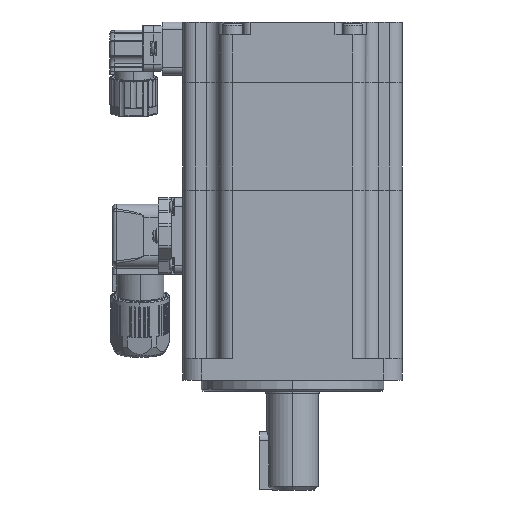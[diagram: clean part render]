
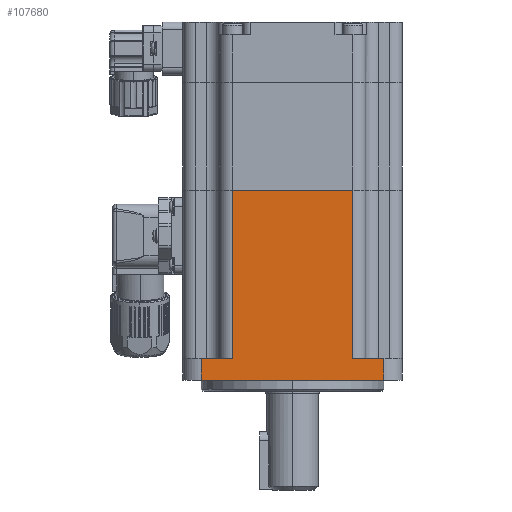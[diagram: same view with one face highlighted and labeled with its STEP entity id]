
A CAD part, left-side view. The second image highlights one B-rep face of the part: STEP entity #107680.
In plain terms, the highlighted planar face has unit normal (-1, 0, 0).
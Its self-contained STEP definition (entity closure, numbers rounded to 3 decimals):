
#1230 = LINE ( 'NONE', #61931, #148388 ) ;
#3640 = VERTEX_POINT ( 'NONE', #35655 ) ;
#5952 = LINE ( 'NONE', #21844, #115568 ) ;
#6083 = LINE ( 'NONE', #158345, #57255 ) ;
#8653 = VERTEX_POINT ( 'NONE', #26908 ) ;
#9977 = EDGE_CURVE ( 'NONE', #3640, #159515, #29671, .T. ) ;
#10234 = LINE ( 'NONE', #131616, #136690 ) ;
#20847 = LINE ( 'NONE', #187076, #57959 ) ;
#21493 = CARTESIAN_POINT ( 'NONE',  ( -30., 27.321, 149.875 ) ) ;
#21844 = CARTESIAN_POINT ( 'NONE',  ( -30., 73.821, 149.875 ) ) ;
#26908 = CARTESIAN_POINT ( 'NONE',  ( -30., 18.821, 143.875 ) ) ;
#29671 = LINE ( 'NONE', #119249, #56062 ) ;
#32810 = DIRECTION ( 'NONE',  ( 0., 0., -1. ) ) ;
#35655 = CARTESIAN_POINT ( 'NONE',  ( -30., 60.321, 149.875 ) ) ;
#35873 = CARTESIAN_POINT ( 'NONE',  ( -30., 73.821, 195.875 ) ) ;
#35908 = DIRECTION ( 'NONE',  ( 0., -1., 0. ) ) ;
#47867 = FACE_OUTER_BOUND ( 'NONE', #78082, .T. ) ;
#49115 = LINE ( 'NONE', #97851, #135090 ) ;
#51969 = EDGE_CURVE ( 'NONE', #60675, #99868, #10234, .T. ) ;
#56062 = VECTOR ( 'NONE', #121230, 1000. ) ;
#57255 = VECTOR ( 'NONE', #35908, 1000. ) ;
#57959 = VECTOR ( 'NONE', #32810, 1000. ) ;
#60675 = VERTEX_POINT ( 'NONE', #115701 ) ;
#61931 = CARTESIAN_POINT ( 'NONE',  ( -30., 27.321, 54.243 ) ) ;
#64811 = EDGE_CURVE ( 'NONE', #8653, #60675, #169399, .T. ) ;
#66103 = ORIENTED_EDGE ( 'NONE', *, *, #168116, .T. ) ;
#69545 = CARTESIAN_POINT ( 'NONE',  ( -30., 60.321, 195.875 ) ) ;
#78082 = EDGE_LOOP ( 'NONE', ( #146323, #188366, #164222, #66103, #102705, #163810, #166681, #132768 ) ) ;
#78313 = VERTEX_POINT ( 'NONE', #165167 ) ;
#81250 = DIRECTION ( 'NONE',  ( 0., 1., 0. ) ) ;
#97851 = CARTESIAN_POINT ( 'NONE',  ( -30., 73.821, 143.875 ) ) ;
#99399 = DIRECTION ( 'NONE',  ( 0., 1., 0. ) ) ;
#99868 = VERTEX_POINT ( 'NONE', #21493 ) ;
#102705 = ORIENTED_EDGE ( 'NONE', *, *, #144320, .F. ) ;
#107680 = ADVANCED_FACE ( 'NONE', ( #47867 ), #126430, .F. ) ;
#109633 = CARTESIAN_POINT ( 'NONE',  ( -30., 27.321, 195.875 ) ) ;
#115568 = VECTOR ( 'NONE', #99399, 1000. ) ;
#115701 = CARTESIAN_POINT ( 'NONE',  ( -30., 18.821, 149.875 ) ) ;
#119249 = CARTESIAN_POINT ( 'NONE',  ( -30., 60.321, 54.243 ) ) ;
#121230 = DIRECTION ( 'NONE',  ( 0., 0., 1. ) ) ;
#124748 = DIRECTION ( 'NONE',  ( 0., 1., 0. ) ) ;
#125207 = EDGE_CURVE ( 'NONE', #78313, #154217, #20847, .T. ) ;
#126430 = PLANE ( 'NONE',  #166380 ) ;
#129293 = VECTOR ( 'NONE', #170386, 1000. ) ;
#131616 = CARTESIAN_POINT ( 'NONE',  ( -30., 73.821, 149.875 ) ) ;
#132768 = ORIENTED_EDGE ( 'NONE', *, *, #125207, .T. ) ;
#135090 = VECTOR ( 'NONE', #124748, 1000. ) ;
#136690 = VECTOR ( 'NONE', #81250, 1000. ) ;
#137565 = CARTESIAN_POINT ( 'NONE',  ( -30., 18.821, 195.875 ) ) ;
#144320 = EDGE_CURVE ( 'NONE', #159515, #147174, #6083, .T. ) ;
#146323 = ORIENTED_EDGE ( 'NONE', *, *, #190924, .F. ) ;
#147174 = VERTEX_POINT ( 'NONE', #109633 ) ;
#148388 = VECTOR ( 'NONE', #155489, 1000. ) ;
#154217 = VERTEX_POINT ( 'NONE', #165669 ) ;
#155489 = DIRECTION ( 'NONE',  ( 0., 0., 1. ) ) ;
#156351 = DIRECTION ( 'NONE',  ( 0., 0., -1. ) ) ;
#158345 = CARTESIAN_POINT ( 'NONE',  ( -30., 73.821, 195.875 ) ) ;
#159515 = VERTEX_POINT ( 'NONE', #69545 ) ;
#159551 = EDGE_CURVE ( 'NONE', #3640, #78313, #5952, .T. ) ;
#163810 = ORIENTED_EDGE ( 'NONE', *, *, #9977, .F. ) ;
#164222 = ORIENTED_EDGE ( 'NONE', *, *, #51969, .T. ) ;
#165167 = CARTESIAN_POINT ( 'NONE',  ( -30., 68.821, 149.875 ) ) ;
#165669 = CARTESIAN_POINT ( 'NONE',  ( -30., 68.821, 143.875 ) ) ;
#166380 = AXIS2_PLACEMENT_3D ( 'NONE', #35873, #187176, #156351 ) ;
#166681 = ORIENTED_EDGE ( 'NONE', *, *, #159551, .T. ) ;
#168116 = EDGE_CURVE ( 'NONE', #99868, #147174, #1230, .T. ) ;
#169399 = LINE ( 'NONE', #137565, #129293 ) ;
#170386 = DIRECTION ( 'NONE',  ( 0., 0., 1. ) ) ;
#187076 = CARTESIAN_POINT ( 'NONE',  ( -30., 68.821, 195.875 ) ) ;
#187176 = DIRECTION ( 'NONE',  ( 1., 0., 0. ) ) ;
#188366 = ORIENTED_EDGE ( 'NONE', *, *, #64811, .T. ) ;
#190924 = EDGE_CURVE ( 'NONE', #8653, #154217, #49115, .T. ) ;
